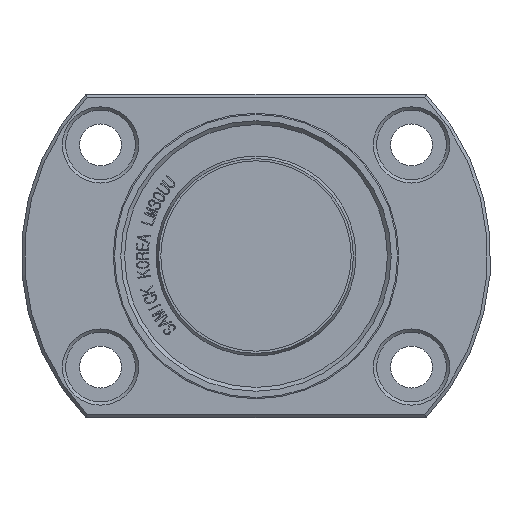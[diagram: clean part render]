
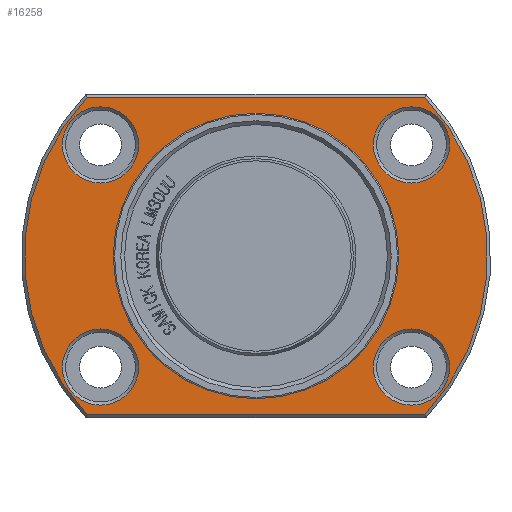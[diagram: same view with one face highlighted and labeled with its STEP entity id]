
A CAD part, front view. The second image highlights one B-rep face of the part: STEP entity #16258.
In plain terms, the highlighted planar face has unit normal (0, -1, 0).
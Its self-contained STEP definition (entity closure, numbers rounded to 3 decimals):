
#2703=FACE_BOUND('',#3875,.T.);
#2704=FACE_BOUND('',#3876,.T.);
#2705=FACE_BOUND('',#3877,.T.);
#2706=FACE_BOUND('',#3878,.T.);
#2707=FACE_BOUND('',#3879,.T.);
#2767=PLANE('',#17159);
#2996=FACE_OUTER_BOUND('',#3874,.T.);
#3874=EDGE_LOOP('',(#11310,#11311,#11312,#11313));
#3875=EDGE_LOOP('',(#11314));
#3876=EDGE_LOOP('',(#11315));
#3877=EDGE_LOOP('',(#11316,#11317));
#3878=EDGE_LOOP('',(#11318));
#3879=EDGE_LOOP('',(#11319));
#4816=LINE('',#19347,#5962);
#4817=LINE('',#19351,#5963);
#5962=VECTOR('',#17512,10.);
#5963=VECTOR('',#17515,10.);
#7107=CIRCLE('',#17156,6.);
#7110=CIRCLE('',#17160,36.5);
#7111=CIRCLE('',#17161,36.5);
#7112=CIRCLE('',#17162,6.);
#7113=CIRCLE('',#17163,6.);
#7114=CIRCLE('',#17164,22.5);
#7115=CIRCLE('',#17165,22.5);
#7116=CIRCLE('',#17166,6.);
#7189=VERTEX_POINT('',#19337);
#7192=VERTEX_POINT('',#19345);
#7193=VERTEX_POINT('',#19346);
#7194=VERTEX_POINT('',#19348);
#7195=VERTEX_POINT('',#19350);
#7196=VERTEX_POINT('',#19353);
#7197=VERTEX_POINT('',#19355);
#7198=VERTEX_POINT('',#19357);
#7199=VERTEX_POINT('',#19358);
#7200=VERTEX_POINT('',#19361);
#8837=EDGE_CURVE('',#7189,#7189,#7107,.T.);
#8841=EDGE_CURVE('',#7192,#7193,#4816,.T.);
#8842=EDGE_CURVE('',#7192,#7194,#7110,.T.);
#8843=EDGE_CURVE('',#7195,#7194,#4817,.T.);
#8844=EDGE_CURVE('',#7195,#7193,#7111,.T.);
#8845=EDGE_CURVE('',#7196,#7196,#7112,.T.);
#8846=EDGE_CURVE('',#7197,#7197,#7113,.T.);
#8847=EDGE_CURVE('',#7198,#7199,#7114,.T.);
#8848=EDGE_CURVE('',#7199,#7198,#7115,.T.);
#8849=EDGE_CURVE('',#7200,#7200,#7116,.T.);
#11310=ORIENTED_EDGE('',*,*,#8841,.F.);
#11311=ORIENTED_EDGE('',*,*,#8842,.T.);
#11312=ORIENTED_EDGE('',*,*,#8843,.F.);
#11313=ORIENTED_EDGE('',*,*,#8844,.T.);
#11314=ORIENTED_EDGE('',*,*,#8845,.F.);
#11315=ORIENTED_EDGE('',*,*,#8846,.F.);
#11316=ORIENTED_EDGE('',*,*,#8847,.F.);
#11317=ORIENTED_EDGE('',*,*,#8848,.F.);
#11318=ORIENTED_EDGE('',*,*,#8849,.F.);
#11319=ORIENTED_EDGE('',*,*,#8837,.F.);
#16258=ADVANCED_FACE('',(#2996,#2703,#2704,#2705,#2706,#2707),#2767,.T.);
#17156=AXIS2_PLACEMENT_3D('',#19338,#17503,#17504);
#17159=AXIS2_PLACEMENT_3D('',#19344,#17510,#17511);
#17160=AXIS2_PLACEMENT_3D('',#19349,#17513,#17514);
#17161=AXIS2_PLACEMENT_3D('',#19352,#17516,#17517);
#17162=AXIS2_PLACEMENT_3D('',#19354,#17518,#17519);
#17163=AXIS2_PLACEMENT_3D('',#19356,#17520,#17521);
#17164=AXIS2_PLACEMENT_3D('',#19359,#17522,#17523);
#17165=AXIS2_PLACEMENT_3D('',#19360,#17524,#17525);
#17166=AXIS2_PLACEMENT_3D('',#19362,#17526,#17527);
#17503=DIRECTION('center_axis',(0.,-1.,0.));
#17504=DIRECTION('ref_axis',(-1.,0.,0.));
#17510=DIRECTION('center_axis',(0.,-1.,0.));
#17511=DIRECTION('ref_axis',(0.,0.,-1.));
#17512=DIRECTION('',(-1.,0.,0.));
#17513=DIRECTION('center_axis',(0.,-1.,0.));
#17514=DIRECTION('ref_axis',(1.,0.,0.));
#17515=DIRECTION('',(1.,0.,0.));
#17516=DIRECTION('center_axis',(0.,-1.,0.));
#17517=DIRECTION('ref_axis',(1.,0.,0.));
#17518=DIRECTION('center_axis',(0.,-1.,0.));
#17519=DIRECTION('ref_axis',(-1.,0.,0.));
#17520=DIRECTION('center_axis',(0.,-1.,0.));
#17521=DIRECTION('ref_axis',(-1.,0.,0.));
#17522=DIRECTION('center_axis',(0.,-1.,0.));
#17523=DIRECTION('ref_axis',(1.,0.,0.));
#17524=DIRECTION('center_axis',(0.,-1.,0.));
#17525=DIRECTION('ref_axis',(1.,0.,0.));
#17526=DIRECTION('center_axis',(0.,-1.,0.));
#17527=DIRECTION('ref_axis',(-1.,0.,0.));
#19337=CARTESIAN_POINT('',(-18.5,-61.5,-17.5));
#19338=CARTESIAN_POINT('Origin',(-24.5,-61.5,-17.5));
#19344=CARTESIAN_POINT('Origin',(29.5,-61.5,0.));
#19345=CARTESIAN_POINT('',(26.594,-61.5,-25.));
#19346=CARTESIAN_POINT('',(-26.594,-61.5,-25.));
#19347=CARTESIAN_POINT('',(34.75,-61.5,-25.));
#19348=CARTESIAN_POINT('',(26.594,-61.5,25.));
#19349=CARTESIAN_POINT('Origin',(0.,-61.5,0.));
#19350=CARTESIAN_POINT('',(-26.594,-61.5,25.));
#19351=CARTESIAN_POINT('',(-5.25,-61.5,25.));
#19352=CARTESIAN_POINT('Origin',(0.,-61.5,0.));
#19353=CARTESIAN_POINT('',(30.5,-61.5,-17.5));
#19354=CARTESIAN_POINT('Origin',(24.5,-61.5,-17.5));
#19355=CARTESIAN_POINT('',(-18.5,-61.5,17.5));
#19356=CARTESIAN_POINT('Origin',(-24.5,-61.5,17.5));
#19357=CARTESIAN_POINT('',(22.5,-61.5,0.));
#19358=CARTESIAN_POINT('',(-22.5,-61.5,0.));
#19359=CARTESIAN_POINT('Origin',(0.,-61.5,0.));
#19360=CARTESIAN_POINT('Origin',(0.,-61.5,0.));
#19361=CARTESIAN_POINT('',(30.5,-61.5,17.5));
#19362=CARTESIAN_POINT('Origin',(24.5,-61.5,17.5));
